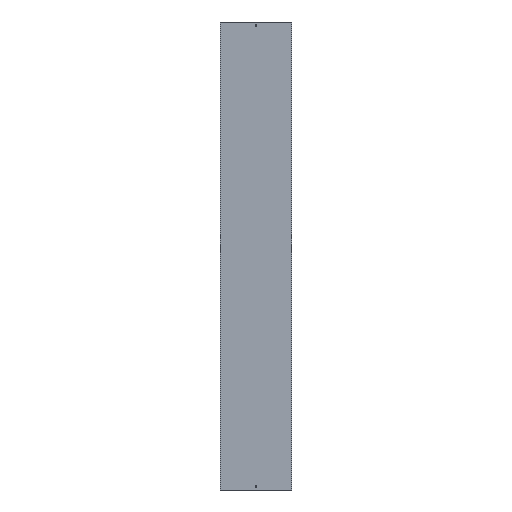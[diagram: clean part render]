
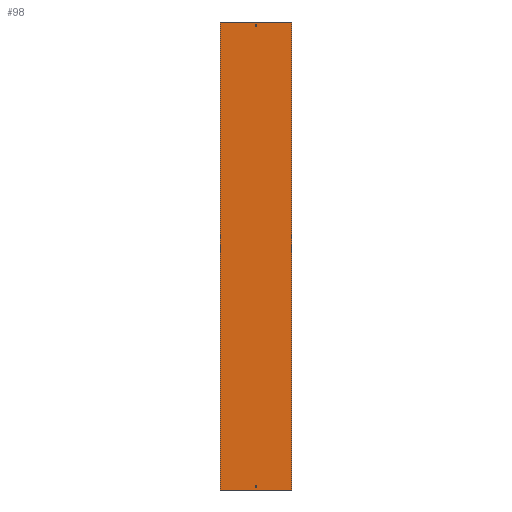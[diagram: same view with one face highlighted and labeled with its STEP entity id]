
A CAD part, front view. The second image highlights one B-rep face of the part: STEP entity #98.
In plain terms, the highlighted planar face has unit normal (0, -1, 0).
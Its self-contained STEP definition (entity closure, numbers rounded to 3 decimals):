
#2 = DIRECTION ( 'NONE',  ( 0., 0., -1. ) ) ;
#5 = LINE ( 'NONE', #180, #243 ) ;
#16 = VERTEX_POINT ( 'NONE', #211 ) ;
#27 = ORIENTED_EDGE ( 'NONE', *, *, #324, .F. ) ;
#35 = VECTOR ( 'NONE', #404, 1000. ) ;
#43 = ORIENTED_EDGE ( 'NONE', *, *, #81, .T. ) ;
#49 = DIRECTION ( 'NONE',  ( 1., 0., 0. ) ) ;
#53 = VERTEX_POINT ( 'NONE', #524 ) ;
#57 = VECTOR ( 'NONE', #353, 1000. ) ;
#64 = VECTOR ( 'NONE', #288, 1000. ) ;
#72 = LINE ( 'NONE', #170, #57 ) ;
#76 = VERTEX_POINT ( 'NONE', #323 ) ;
#80 = VECTOR ( 'NONE', #473, 1000. ) ;
#81 = EDGE_CURVE ( 'NONE', #493, #376, #457, .T. ) ;
#83 = DIRECTION ( 'NONE',  ( 0., -1., 0. ) ) ;
#88 = ORIENTED_EDGE ( 'NONE', *, *, #157, .F. ) ;
#90 = CARTESIAN_POINT ( 'NONE',  ( 3.25, -1.5, -988. ) ) ;
#95 = CARTESIAN_POINT ( 'NONE',  ( 3.25, -1.5, 979. ) ) ;
#98 = ADVANCED_FACE ( 'NONE', ( #401, #131, #584 ), #313, .T. ) ;
#115 = LINE ( 'NONE', #146, #262 ) ;
#118 = ORIENTED_EDGE ( 'NONE', *, *, #507, .F. ) ;
#119 = CARTESIAN_POINT ( 'NONE',  ( -153.5, -1.5, 1000. ) ) ;
#124 = CARTESIAN_POINT ( 'NONE',  ( -3.25, -1.5, -988. ) ) ;
#131 = FACE_OUTER_BOUND ( 'NONE', #428, .T. ) ;
#146 = CARTESIAN_POINT ( 'NONE',  ( -153.5, -1.5, -988. ) ) ;
#149 = EDGE_CURVE ( 'NONE', #376, #459, #229, .T. ) ;
#155 = CARTESIAN_POINT ( 'NONE',  ( 152., -1.5, -1000. ) ) ;
#157 = EDGE_CURVE ( 'NONE', #389, #76, #5, .T. ) ;
#159 = DIRECTION ( 'NONE',  ( 0., 0., 1. ) ) ;
#170 = CARTESIAN_POINT ( 'NONE',  ( 152., -1.5, 1000. ) ) ;
#172 = CARTESIAN_POINT ( 'NONE',  ( -3.25, -1.5, -979. ) ) ;
#173 = EDGE_CURVE ( 'NONE', #257, #544, #319, .T. ) ;
#180 = CARTESIAN_POINT ( 'NONE',  ( -153.5, -1.5, 988. ) ) ;
#187 = DIRECTION ( 'NONE',  ( -1., 0., 0. ) ) ;
#192 = LINE ( 'NONE', #569, #80 ) ;
#204 = VECTOR ( 'NONE', #571, 1000. ) ;
#206 = EDGE_CURVE ( 'NONE', #459, #355, #115, .T. ) ;
#211 = CARTESIAN_POINT ( 'NONE',  ( -152., -1.5, 1000. ) ) ;
#229 = LINE ( 'NONE', #368, #559 ) ;
#234 = EDGE_CURVE ( 'NONE', #16, #451, #552, .T. ) ;
#243 = VECTOR ( 'NONE', #187, 1000. ) ;
#245 = EDGE_CURVE ( 'NONE', #587, #451, #192, .T. ) ;
#249 = LINE ( 'NONE', #303, #390 ) ;
#257 = VERTEX_POINT ( 'NONE', #557 ) ;
#262 = VECTOR ( 'NONE', #339, 1000. ) ;
#278 = DIRECTION ( 'NONE',  ( 0., 0., -1. ) ) ;
#288 = DIRECTION ( 'NONE',  ( 0., 0., -1. ) ) ;
#301 = VECTOR ( 'NONE', #49, 1000. ) ;
#303 = CARTESIAN_POINT ( 'NONE',  ( -3.25, -1.5, 1000. ) ) ;
#313 = PLANE ( 'NONE',  #444 ) ;
#316 = ORIENTED_EDGE ( 'NONE', *, *, #400, .T. ) ;
#319 = LINE ( 'NONE', #499, #301 ) ;
#323 = CARTESIAN_POINT ( 'NONE',  ( -3.25, -1.5, 988. ) ) ;
#324 = EDGE_CURVE ( 'NONE', #53, #587, #72, .T. ) ;
#339 = DIRECTION ( 'NONE',  ( -1., 0., 0. ) ) ;
#342 = EDGE_CURVE ( 'NONE', #355, #493, #249, .T. ) ;
#343 = ORIENTED_EDGE ( 'NONE', *, *, #342, .T. ) ;
#353 = DIRECTION ( 'NONE',  ( 0., 0., -1. ) ) ;
#355 = VERTEX_POINT ( 'NONE', #124 ) ;
#359 = LINE ( 'NONE', #370, #417 ) ;
#368 = CARTESIAN_POINT ( 'NONE',  ( 3.25, -1.5, 1000. ) ) ;
#370 = CARTESIAN_POINT ( 'NONE',  ( -3.25, -1.5, 1000. ) ) ;
#376 = VERTEX_POINT ( 'NONE', #397 ) ;
#383 = CARTESIAN_POINT ( 'NONE',  ( -152., -1.5, 1000. ) ) ;
#387 = CARTESIAN_POINT ( 'NONE',  ( 3.25, -1.5, 988. ) ) ;
#389 = VERTEX_POINT ( 'NONE', #387 ) ;
#390 = VECTOR ( 'NONE', #483, 1000. ) ;
#397 = CARTESIAN_POINT ( 'NONE',  ( 3.25, -1.5, -979. ) ) ;
#400 = EDGE_CURVE ( 'NONE', #53, #16, #578, .T. ) ;
#401 = FACE_BOUND ( 'NONE', #480, .T. ) ;
#404 = DIRECTION ( 'NONE',  ( 1., 0., 0. ) ) ;
#405 = ORIENTED_EDGE ( 'NONE', *, *, #173, .F. ) ;
#413 = EDGE_CURVE ( 'NONE', #544, #389, #530, .T. ) ;
#417 = VECTOR ( 'NONE', #589, 1000. ) ;
#428 = EDGE_LOOP ( 'NONE', ( #528, #27, #316, #506 ) ) ;
#444 = AXIS2_PLACEMENT_3D ( 'NONE', #505, #83, #278 ) ;
#451 = VERTEX_POINT ( 'NONE', #542 ) ;
#454 = ORIENTED_EDGE ( 'NONE', *, *, #413, .F. ) ;
#457 = LINE ( 'NONE', #464, #35 ) ;
#459 = VERTEX_POINT ( 'NONE', #90 ) ;
#464 = CARTESIAN_POINT ( 'NONE',  ( -153.5, -1.5, -979. ) ) ;
#473 = DIRECTION ( 'NONE',  ( -1., 0., 0. ) ) ;
#480 = EDGE_LOOP ( 'NONE', ( #118, #88, #454, #405 ) ) ;
#483 = DIRECTION ( 'NONE',  ( 0., 0., 1. ) ) ;
#484 = ORIENTED_EDGE ( 'NONE', *, *, #206, .T. ) ;
#493 = VERTEX_POINT ( 'NONE', #172 ) ;
#499 = CARTESIAN_POINT ( 'NONE',  ( -153.5, -1.5, 979. ) ) ;
#505 = CARTESIAN_POINT ( 'NONE',  ( -153.5, -1.5, 1000. ) ) ;
#506 = ORIENTED_EDGE ( 'NONE', *, *, #234, .T. ) ;
#507 = EDGE_CURVE ( 'NONE', #76, #257, #359, .T. ) ;
#524 = CARTESIAN_POINT ( 'NONE',  ( 152., -1.5, 1000. ) ) ;
#525 = CARTESIAN_POINT ( 'NONE',  ( 3.25, -1.5, 1000. ) ) ;
#528 = ORIENTED_EDGE ( 'NONE', *, *, #245, .F. ) ;
#530 = LINE ( 'NONE', #525, #538 ) ;
#538 = VECTOR ( 'NONE', #159, 1000. ) ;
#542 = CARTESIAN_POINT ( 'NONE',  ( -152., -1.5, -1000. ) ) ;
#544 = VERTEX_POINT ( 'NONE', #95 ) ;
#552 = LINE ( 'NONE', #383, #64 ) ;
#557 = CARTESIAN_POINT ( 'NONE',  ( -3.25, -1.5, 979. ) ) ;
#559 = VECTOR ( 'NONE', #2, 1000. ) ;
#563 = ORIENTED_EDGE ( 'NONE', *, *, #149, .T. ) ;
#567 = EDGE_LOOP ( 'NONE', ( #484, #343, #43, #563 ) ) ;
#569 = CARTESIAN_POINT ( 'NONE',  ( -153.5, -1.5, -1000. ) ) ;
#571 = DIRECTION ( 'NONE',  ( -1., 0., 0. ) ) ;
#578 = LINE ( 'NONE', #119, #204 ) ;
#584 = FACE_BOUND ( 'NONE', #567, .T. ) ;
#587 = VERTEX_POINT ( 'NONE', #155 ) ;
#589 = DIRECTION ( 'NONE',  ( 0., 0., -1. ) ) ;
